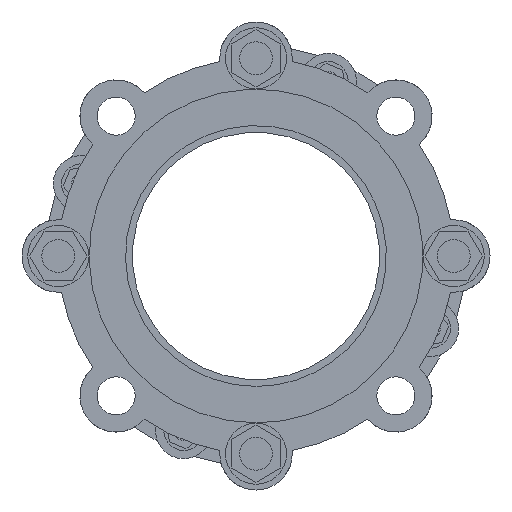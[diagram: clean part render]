
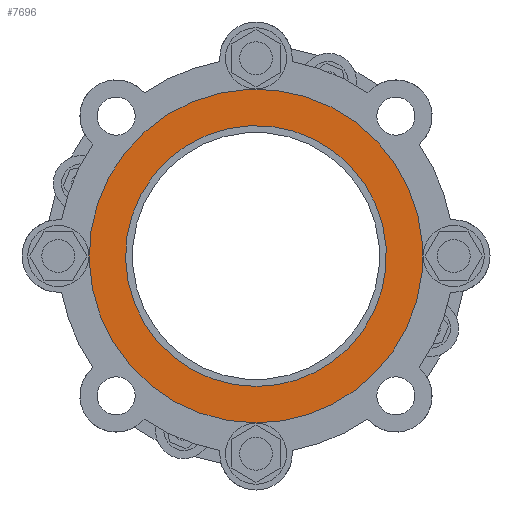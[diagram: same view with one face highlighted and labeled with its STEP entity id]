
A CAD part, front view. The second image highlights one B-rep face of the part: STEP entity #7696.
In plain terms, the highlighted planar face has unit normal (0, -1, 0) as drawn and (0, 1, 0) by its records, which use the part's own axes.
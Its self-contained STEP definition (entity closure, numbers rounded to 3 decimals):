
#5761=CARTESIAN_POINT('',(0.,0.,0.));
#5762=DIRECTION('',(0.,1.,0.));
#5763=DIRECTION('',(-0.707,0.,-0.707));
#5764=AXIS2_PLACEMENT_3D('',#5761,#5762,#5763);
#5784=CARTESIAN_POINT('',(0.,0.,
0.));
#5785=DIRECTION('',(0.,-1.,0.));
#5786=DIRECTION('',(-0.707,0.,-0.707));
#5787=AXIS2_PLACEMENT_3D('',#5784,#5785,#5786);
#5789=CARTESIAN_POINT('',(0.,0.,0.));
#5790=DIRECTION('',(0.,-1.,0.));
#5791=DIRECTION('',(0.,0.,-1.));
#5792=AXIS2_PLACEMENT_3D('',#5789,#5790,#5791);
#5798=CARTESIAN_POINT('',(0.,0.,
0.));
#5799=DIRECTION('',(0.,-1.,0.));
#5800=DIRECTION('',(-0.707,0.,-0.707));
#5801=AXIS2_PLACEMENT_3D('',#5798,#5799,#5800);
#7075=CARTESIAN_POINT('',(-55.968,0.,-55.968));
#7077=VERTEX_POINT('',#7075);
#7079=CARTESIAN_POINT('',(0.,0.,-79.15));
#7081=VERTEX_POINT('',#7079);
#7083=CARTESIAN_POINT('',(-71.595,0.,-71.595));
#7085=VERTEX_POINT('',#7083);
#7087=CARTESIAN_POINT('',(0.,0.,-101.25));
#7089=VERTEX_POINT('',#7087);
#7681=CARTESIAN_POINT('',(0.,0.,0.));
#7682=DIRECTION('',(0.,-1.,0.));
#7683=DIRECTION('',(0.,0.,1.));
#7684=AXIS2_PLACEMENT_3D('',#7681,#7682,#7683);
#7685=PLANE('',#7684);
#7686=ORIENTED_EDGE('',*,*,#7660,.F.);
#7687=ORIENTED_EDGE('',*,*,#7676,.T.);
#7688=EDGE_LOOP('',(#7686,#7687));
#7689=FACE_OUTER_BOUND('',#7688,.F.);
#7691=ORIENTED_EDGE('',*,*,#7690,.F.);
#7693=ORIENTED_EDGE('',*,*,#7692,.F.);
#7694=EDGE_LOOP('',(#7691,#7693));
#7695=FACE_BOUND('',#7694,.F.);
#7696=ADVANCED_FACE('',(#7689,#7695),#7685,.F.);
#5765=CIRCLE('',#5764,101.25);
#5788=CIRCLE('',#5787,101.25);
#5793=CIRCLE('',#5792,79.15);
#5802=CIRCLE('',#5801,79.15);
#7660=EDGE_CURVE('',#7085,#7089,#5765,.T.);
#7676=EDGE_CURVE('',#7085,#7089,#5788,.T.);
#7690=EDGE_CURVE('',#7081,#7077,#5793,.T.);
#7692=EDGE_CURVE('',#7077,#7081,#5802,.T.);
